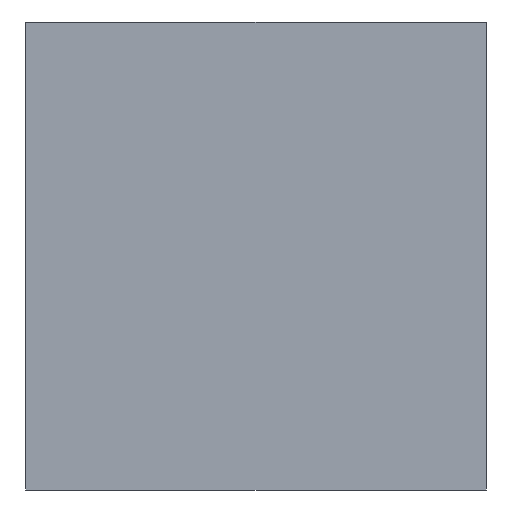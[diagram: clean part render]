
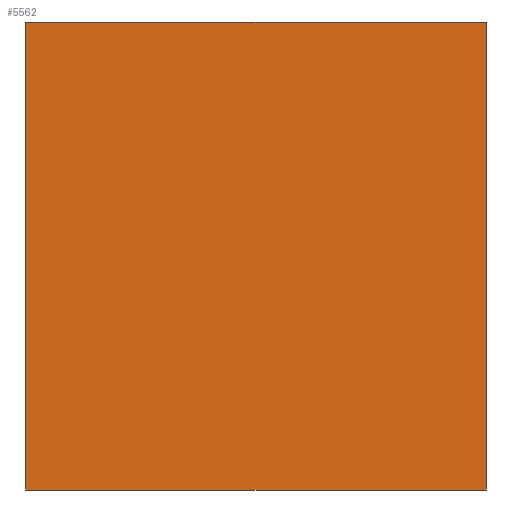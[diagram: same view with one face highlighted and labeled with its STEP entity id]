
A CAD part, left-side view. The second image highlights one B-rep face of the part: STEP entity #5562.
In plain terms, the highlighted planar face has unit normal (-1, 0, 0).
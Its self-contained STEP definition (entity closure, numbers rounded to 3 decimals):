
#1005 = VERTEX_POINT ( 'NONE', #8623 ) ;
#2116 = EDGE_LOOP ( 'NONE', ( #13361, #9822, #9814, #9796 ) ) ;
#2350 = CARTESIAN_POINT ( 'NONE',  ( 0., 14.75, -15. ) ) ;
#2827 = VECTOR ( 'NONE', #11776, 1000. ) ;
#2875 = LINE ( 'NONE', #8349, #2827 ) ;
#3038 = VECTOR ( 'NONE', #10577, 1000. ) ;
#3251 = LINE ( 'NONE', #10627, #3038 ) ;
#3553 = DIRECTION ( 'NONE',  ( 0., 0., 1. ) ) ;
#4435 = VERTEX_POINT ( 'NONE', #8178 ) ;
#4500 = LINE ( 'NONE', #14662, #4536 ) ;
#4536 = VECTOR ( 'NONE', #4559, 1000. ) ;
#4559 = DIRECTION ( 'NONE',  ( 0., 0., 1. ) ) ;
#4682 = FACE_OUTER_BOUND ( 'NONE', #2116, .T. ) ;
#5332 = EDGE_CURVE ( 'NONE', #6214, #4435, #10348, .T. ) ;
#5558 = EDGE_CURVE ( 'NONE', #11845, #1005, #4500, .T. ) ;
#5562 = ADVANCED_FACE ( 'NONE', ( #4682 ), #12610, .T. ) ;
#5639 = EDGE_CURVE ( 'NONE', #4435, #11845, #3251, .T. ) ;
#5678 = EDGE_CURVE ( 'NONE', #1005, #6214, #2875, .T. ) ;
#6214 = VERTEX_POINT ( 'NONE', #7513 ) ;
#6243 = CARTESIAN_POINT ( 'NONE',  ( 0., -14.75, 15. ) ) ;
#7513 = CARTESIAN_POINT ( 'NONE',  ( 0., -14.75, 15. ) ) ;
#8178 = CARTESIAN_POINT ( 'NONE',  ( 0., -14.75, -15. ) ) ;
#8349 = CARTESIAN_POINT ( 'NONE',  ( 0., -14.75, 15. ) ) ;
#8623 = CARTESIAN_POINT ( 'NONE',  ( 0., 14.75, 15. ) ) ;
#9796 = ORIENTED_EDGE ( 'NONE', *, *, #5558, .F. ) ;
#9814 = ORIENTED_EDGE ( 'NONE', *, *, #5678, .F. ) ;
#9822 = ORIENTED_EDGE ( 'NONE', *, *, #5332, .F. ) ;
#10337 = VECTOR ( 'NONE', #13038, 1000. ) ;
#10348 = LINE ( 'NONE', #6243, #10337 ) ;
#10492 = DIRECTION ( 'NONE',  ( -1., 0., 0. ) ) ;
#10577 = DIRECTION ( 'NONE',  ( 0., 1., 0. ) ) ;
#10627 = CARTESIAN_POINT ( 'NONE',  ( 0., -14.75, -15. ) ) ;
#11013 = CARTESIAN_POINT ( 'NONE',  ( 0., 14.75, -15. ) ) ;
#11776 = DIRECTION ( 'NONE',  ( 0., -1., 0. ) ) ;
#11845 = VERTEX_POINT ( 'NONE', #11013 ) ;
#12610 = PLANE ( 'NONE',  #14557 ) ;
#13038 = DIRECTION ( 'NONE',  ( 0., 0., -1. ) ) ;
#13361 = ORIENTED_EDGE ( 'NONE', *, *, #5639, .F. ) ;
#14557 = AXIS2_PLACEMENT_3D ( 'NONE', #2350, #10492, #3553 ) ;
#14662 = CARTESIAN_POINT ( 'NONE',  ( 0., 14.75, 15. ) ) ;
